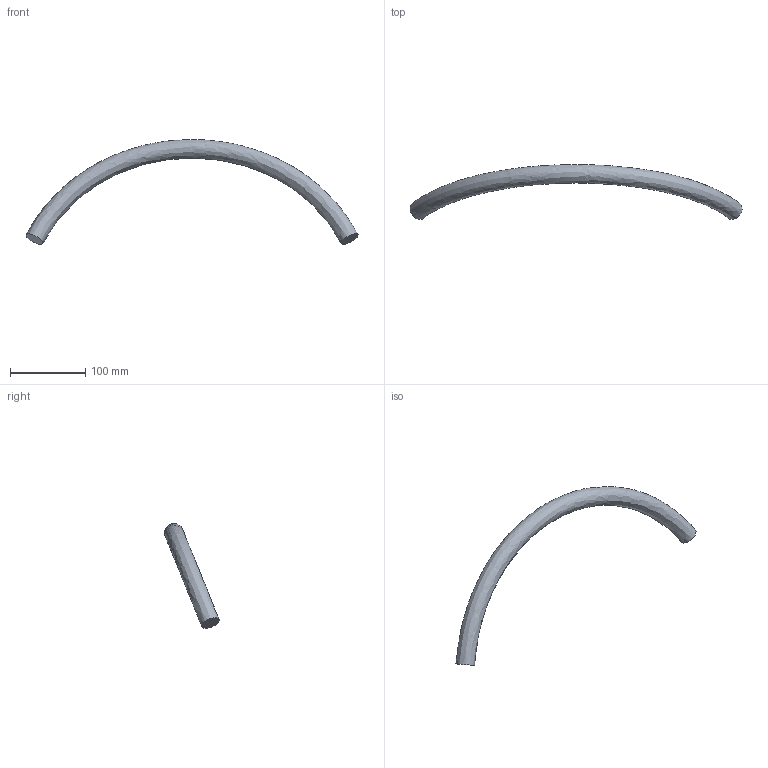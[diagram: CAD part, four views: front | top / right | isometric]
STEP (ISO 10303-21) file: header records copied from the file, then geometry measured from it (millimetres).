
FILE_DESCRIPTION(('Open CASCADE Model'),'2;1');
FILE_NAME('Open CASCADE Shape Model','2026-10-28T20:18:58',('Author'),( 'Open CASCADE'),'Open CASCADE STEP processor 7.8','Open CASCADE 7.8' ,'Unknown');
FILE_SCHEMA(('AUTOMOTIVE_DESIGN { 1 0 10303 214 1 1 1 1 }'));
Length unit declared in the file: millimetre
Products named in the file (1): Open CASCADE STEP translator 7.8 29
Bounding box: 442.4 x 72.94 x 139.1 mm (x, y, z)
Volume: 255486.7 mm3; surface area: 41859.6 mm2
Topology: 1 solids, 1 shells, 3 faces, 3 edges, 2 vertices
Faces by surface type: plane 2, bspline 1
Entity records: 245 total; most frequent: CARTESIAN_POINT 173, DIRECTION 10, ORIENTED_EDGE 6, PCURVE 6, DEFINITIONAL_REPRESENTATION 6, LINE 4, VECTOR 4, AXIS2_PLACEMENT_3D 3
